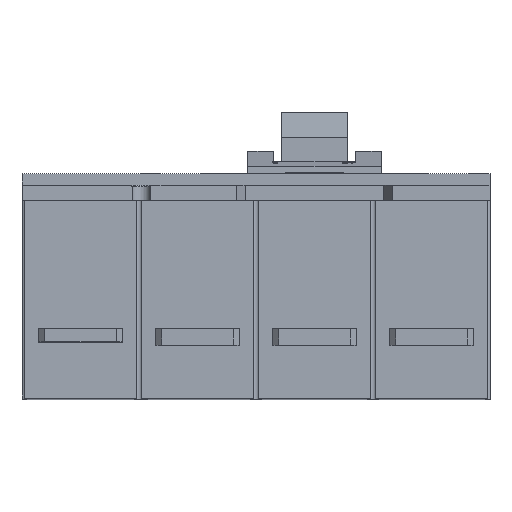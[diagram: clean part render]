
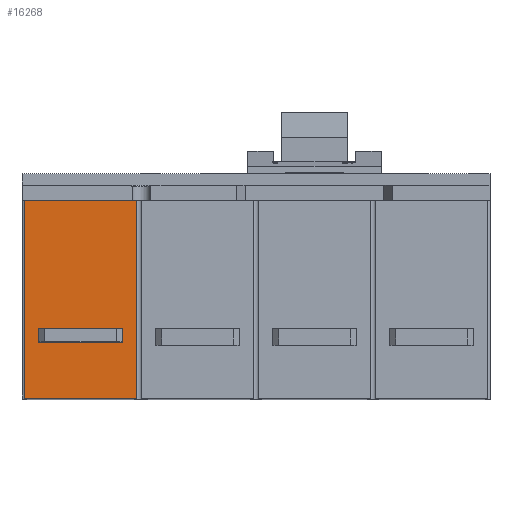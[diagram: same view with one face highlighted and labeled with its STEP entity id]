
A CAD part, top view. The second image highlights one B-rep face of the part: STEP entity #16268.
In plain terms, the highlighted planar face has unit normal (0, 0, 1).
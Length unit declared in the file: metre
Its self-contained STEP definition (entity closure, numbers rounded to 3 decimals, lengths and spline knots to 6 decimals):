
#1547=LINE('',#25378,#3522);
#1548=LINE('',#25381,#3523);
#1551=LINE('',#25386,#3526);
#1552=LINE('',#25388,#3527);
#1571=LINE('',#25437,#3546);
#1574=LINE('',#25442,#3549);
#1575=LINE('',#25444,#3550);
#1576=LINE('',#25445,#3551);
#3522=VECTOR('',#20727,0.008);
#3523=VECTOR('',#20730,0.05);
#3526=VECTOR('',#20735,0.008);
#3527=VECTOR('',#20738,0.05);
#3546=VECTOR('',#20781,0.119);
#3549=VECTOR('',#20786,0.0674);
#3550=VECTOR('',#20787,0.0674);
#3551=VECTOR('',#20788,0.119);
#4601=PLANE('',#17329);
#4907=FACE_BOUND('',#6600,.T.);
#5608=FACE_OUTER_BOUND('',#6599,.T.);
#6599=EDGE_LOOP('',(#14154,#14155,#14156,#14157));
#6600=EDGE_LOOP('',(#14158,#14159,#14160,#14161));
#8266=VERTEX_POINT('',#25374);
#8267=VERTEX_POINT('',#25376);
#8268=VERTEX_POINT('',#25380);
#8269=VERTEX_POINT('',#25384);
#8286=VERTEX_POINT('',#25435);
#8287=VERTEX_POINT('',#25436);
#8288=VERTEX_POINT('',#25441);
#8289=VERTEX_POINT('',#25443);
#10304=EDGE_CURVE('',#8266,#8267,#1547,.T.);
#10305=EDGE_CURVE('',#8266,#8268,#1548,.T.);
#10308=EDGE_CURVE('',#8268,#8269,#1551,.T.);
#10309=EDGE_CURVE('',#8267,#8269,#1552,.T.);
#10332=EDGE_CURVE('',#8286,#8287,#1571,.T.);
#10335=EDGE_CURVE('',#8288,#8287,#1574,.T.);
#10336=EDGE_CURVE('',#8289,#8286,#1575,.T.);
#10337=EDGE_CURVE('',#8289,#8288,#1576,.T.);
#14154=ORIENTED_EDGE('',*,*,#10335,.T.);
#14155=ORIENTED_EDGE('',*,*,#10332,.F.);
#14156=ORIENTED_EDGE('',*,*,#10336,.F.);
#14157=ORIENTED_EDGE('',*,*,#10337,.T.);
#14158=ORIENTED_EDGE('',*,*,#10308,.F.);
#14159=ORIENTED_EDGE('',*,*,#10305,.F.);
#14160=ORIENTED_EDGE('',*,*,#10304,.T.);
#14161=ORIENTED_EDGE('',*,*,#10309,.T.);
#16268=ADVANCED_FACE('',(#5608,#4907),#4601,.T.);
#17329=AXIS2_PLACEMENT_3D('',#25440,#20784,#20785);
#20727=DIRECTION('',(0.,1.,0.));
#20730=DIRECTION('',(1.,0.,0.));
#20735=DIRECTION('',(0.,1.,0.));
#20738=DIRECTION('',(1.,0.,0.));
#20781=DIRECTION('',(0.,1.,0.));
#20784=DIRECTION('center_axis',(0.,0.,1.));
#20785=DIRECTION('ref_axis',(1.,0.,0.));
#20786=DIRECTION('',(-1.,0.,0.));
#20787=DIRECTION('',(-1.,0.,0.));
#20788=DIRECTION('',(0.,1.,0.));
#25374=CARTESIAN_POINT('',(-0.165,0.034,0.16));
#25376=CARTESIAN_POINT('',(-0.165,0.042,0.16));
#25378=CARTESIAN_POINT('',(-0.165,0.034,0.16));
#25380=CARTESIAN_POINT('',(-0.115,0.034,0.16));
#25381=CARTESIAN_POINT('',(-0.165,0.034,0.16));
#25384=CARTESIAN_POINT('',(-0.115,0.042,0.16));
#25386=CARTESIAN_POINT('',(-0.115,0.034,0.16));
#25388=CARTESIAN_POINT('',(-0.165,0.042,0.16));
#25435=CARTESIAN_POINT('',(-0.1737,0.,0.16));
#25436=CARTESIAN_POINT('',(-0.1737,0.119,0.16));
#25437=CARTESIAN_POINT('',(-0.1737,0.,0.16));
#25440=CARTESIAN_POINT('Origin',(-0.105,0.,0.16));
#25441=CARTESIAN_POINT('',(-0.1063,0.119,0.16));
#25442=CARTESIAN_POINT('',(-0.1063,0.119,0.16));
#25443=CARTESIAN_POINT('',(-0.1063,0.,0.16));
#25444=CARTESIAN_POINT('',(-0.1063,0.,0.16));
#25445=CARTESIAN_POINT('',(-0.1063,0.,0.16));
